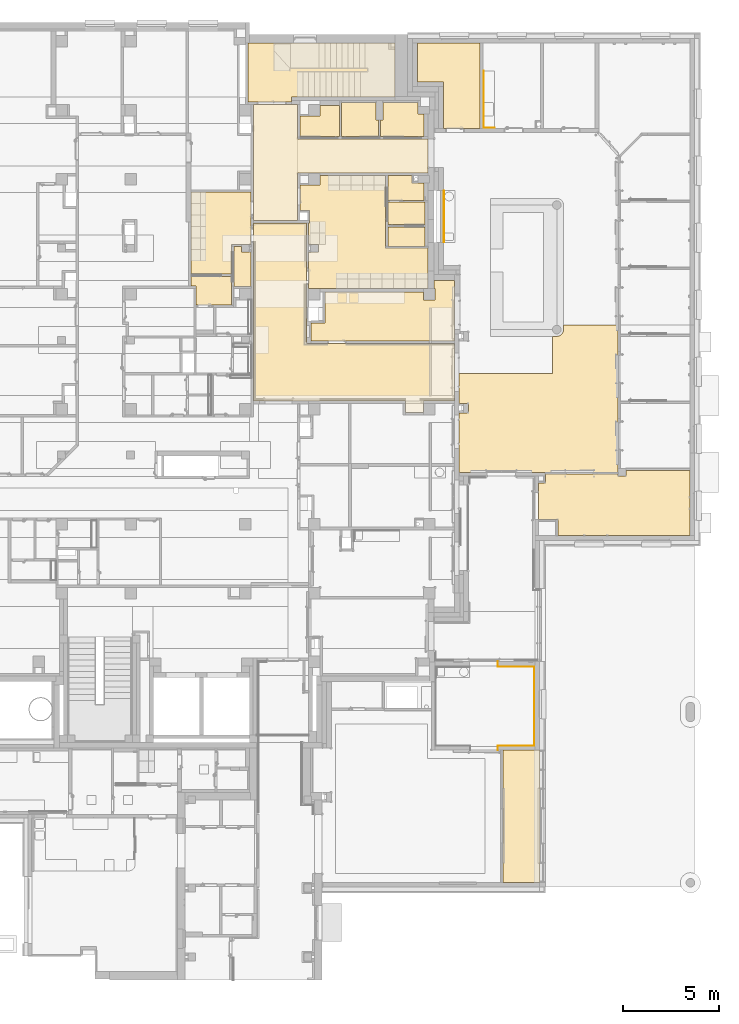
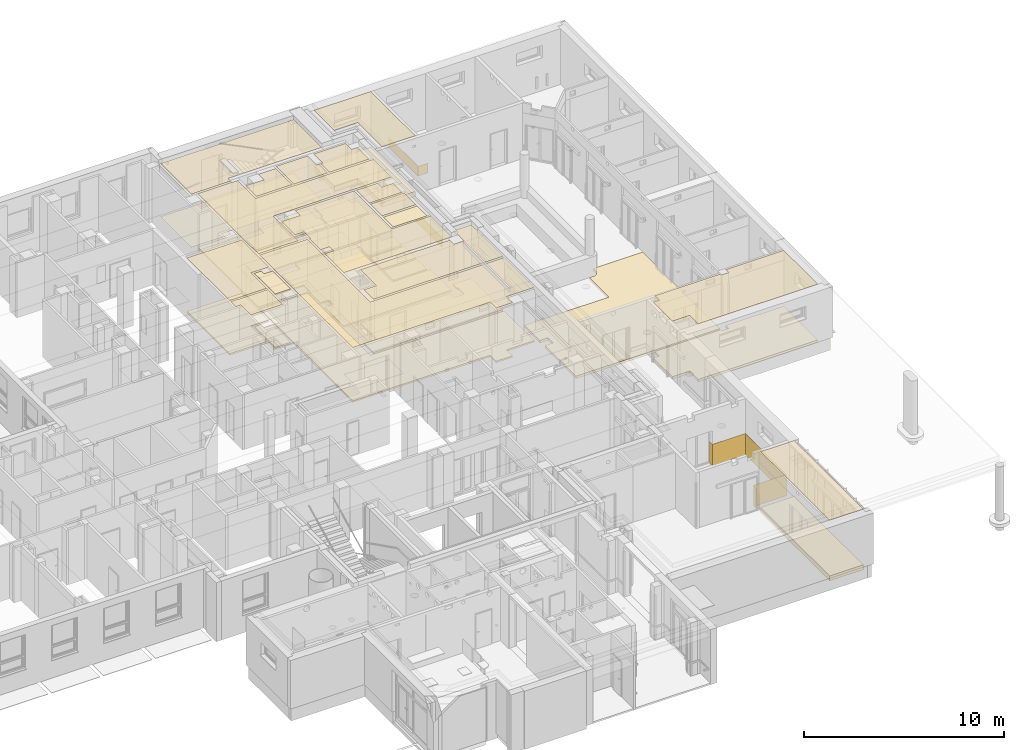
# One storey, part 130 of 140: 37 coverings.
"""IFC4 building model written with IfcOpenShell, lengths in metres."""

from ifc_helpers import new_model, entity, si_unit, converted_unit, derived_unit, frame, frame_2d, origin, origin_with_axes, place, context, subcontext, project, spatial, polyline, rectangle, outline, extrude, material, layer, layer_set, layer_usage, element, save


model = new_model("IFC4")

# Units and contexts
model_context = context("Model", 3, precision=1e-05, world=origin())
body_context = subcontext(model_context, "Body", "Model", "MODEL_VIEW")
ifc_project = project(units=[si_unit("LENGTHUNIT", "METRE"), si_unit("AREAUNIT", "SQUARE_METRE"), si_unit("VOLUMEUNIT", "CUBIC_METRE"), si_unit("MASSUNIT", "GRAM", prefix="KILO"), converted_unit("PLANEANGLEUNIT", "DEGREE", entity("IfcPlaneAngleMeasure", 0.0174532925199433), si_unit("PLANEANGLEUNIT", "RADIAN"), dimensions=[0, 0, 0, 0, 0, 0, 0]), derived_unit("THERMALTRANSMITTANCEUNIT", [(si_unit("POWERUNIT", "WATT"), 1), (si_unit("THERMODYNAMICTEMPERATUREUNIT", "KELVIN"), -1), (si_unit("LENGTHUNIT", "METRE"), -2)]), derived_unit("VOLUMETRICFLOWRATEUNIT", [(si_unit("LENGTHUNIT", "METRE"), 3), (converted_unit("TIMEUNIT", "hour", entity("IfcTimeMeasure", 3600.0), si_unit("TIMEUNIT", "SECOND"), dimensions=[0, 0, 1, 0, 0, 0, 0]), -1), (si_unit("LENGTHUNIT", "METRE"), -1)])], contexts=[model_context])

# Site, building, storey
site_placement = place(None, origin())
site = spatial("IfcSite", under=ifc_project, at=site_placement, Name="3. ASŘ", CompositionType="ELEMENT")
building_placement = place(site_placement, origin())
building = spatial("IfcBuilding", under=site, at=building_placement, Name="Pavilon C", CompositionType="ELEMENT")
storey_placement = place(building_placement, origin())
storey = spatial("IfcBuildingStorey", under=building, at=storey_placement, Name="Půdorys 1.NP", CompositionType="ELEMENT", Elevation=0.0)

# Coverings
ifc_material_1 = material(Name="KERAMICKÝ OBKLAD")
ifc_layer_1 = layer(ifc_material_1, 0.015)
ifc_layer_set_1 = layer_set([ifc_layer_1])
ifc_layer_usage_1 = layer_usage(ifc_layer_set_1, "AXIS3", "POSITIVE", 0.0)
covering_1_placement = place(storey_placement, frame((50.7099434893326, 21.9000827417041, 0.85)))
element("IfcCovering", 1, at=covering_1_placement, inside=storey, material=ifc_layer_usage_1, PredefinedType="CLADDING", context=body_context, shape_type="SweptSolid", body=[
    extrude(rectangle(XDim=0.6, YDim=2.69991052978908, at=frame_2d((-1.34995526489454, -0.3), x_axis=(0.0, -1.0))), frame((9.66311990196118e-05, 0.0, 0.0), z_axis=(0.999999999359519, 3.5790518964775e-05, 0.0), x_axis=(3.5790518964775e-05, -0.999999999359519, 0.0)), (0.0, 0.0, 1.0), 0.015),
])
ifc_material_2 = material(Name="KERAMICKÝ OBKLAD")
ifc_layer_2 = layer(ifc_material_2, 0.015)
ifc_layer_set_2 = layer_set([ifc_layer_2])
ifc_layer_usage_2 = layer_usage(ifc_layer_set_2, "AXIS3", "POSITIVE", 0.0)
covering_2_placement = place(storey_placement, frame((52.7800002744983, 27.88, 0.85)))
element("IfcCovering", 2, at=covering_2_placement, inside=storey, material=ifc_layer_usage_2, PredefinedType="CLADDING", context=body_context, shape_type="SweptSolid", body=[
    extrude(rectangle(XDim=0.6, YDim=0.569999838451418, at=frame_2d((-0.284999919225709, -0.3), x_axis=(0.0, -1.0))), frame((0.569999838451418, 0.0, 0.0), z_axis=(0.0, 1.0, 0.0), x_axis=(1.0, 0.0, 0.0)), (0.0, 0.0, 1.0), 0.015),
    extrude(rectangle(XDim=0.6, YDim=2.96999942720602, at=frame_2d((-1.48499971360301, -0.3), x_axis=(0.0, -1.0))), frame((-7.27595761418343e-15, -3.63797880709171e-15, 0.0), z_axis=(0.999999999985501, -5.38493816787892e-06, -9.96833435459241e-22), x_axis=(-5.38493816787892e-06, -0.999999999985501, 0.0)), (0.0, 0.0, 1.0), 0.015),
])
ifc_material_3 = material(Name="ACROVINYLOVÝ OBKLAD")
ifc_layer_3 = layer(ifc_material_3, 0.005)
ifc_layer_set_3 = layer_set([ifc_layer_3])
ifc_layer_usage_3 = layer_usage(ifc_layer_set_3, "AXIS3", "POSITIVE", 0.0)
covering_3_placement = place(storey_placement, frame((53.52, -4.6, 0.0)))
element("IfcCovering", 3, at=covering_3_placement, inside=storey, material=ifc_layer_usage_3, PredefinedType="CLADDING", context=body_context, shape_type="SweptSolid", body=[
    extrude(rectangle(XDim=1.3, YDim=0.28, at=frame_2d((-0.14, -0.65), x_axis=(0.0, -1.0))), frame((0.0, 4.63000000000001, 0.0), z_axis=(-1.0, 0.0, 0.0), x_axis=(0.0, 1.0, 0.0)), (0.0, 0.0, 1.0), 0.005),
    extrude(rectangle(XDim=1.3, YDim=4.12000000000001, at=frame_2d((-2.06000000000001, -0.65), x_axis=(0.0, -1.0))), frame((1.89999999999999, 4.35000000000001, 0.0), z_axis=(-1.0, 0.0, 0.0), x_axis=(0.0, 1.0, 0.0)), (0.0, 0.0, 1.0), 0.005),
    extrude(rectangle(XDim=1.3, YDim=0.23, at=frame_2d((-0.115, -0.65), x_axis=(0.0, -1.0))), frame((0.0, 0.23, 0.0), z_axis=(-1.0, 0.0, 0.0), x_axis=(0.0, 1.0, 0.0)), (0.0, 0.0, 1.0), 0.005),
    extrude(rectangle(XDim=1.3, YDim=1.89999999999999, at=frame_2d((-0.949999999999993, -0.65), x_axis=(0.0, -1.0))), frame((1.89999999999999, 0.229999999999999, 0.0), z_axis=(4.78681421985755e-16, 1.0, 0.0), x_axis=(1.0, -4.78681421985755e-16, 0.0)), (0.0, 0.0, 1.0), 0.005),
    extrude(rectangle(XDim=1.3, YDim=1.89999999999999, at=frame_2d((-0.949999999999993, -0.65), x_axis=(0.0, -1.0))), frame((0.0, 4.35000000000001, 0.0), z_axis=(-1.49587944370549e-17, -1.0, 0.0), x_axis=(-1.0, 1.49587944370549e-17, 0.0)), (0.0, 0.0, 1.0), 0.005),
])

# Space
space_1_placement = place(storey_placement, frame((40.475, 29.225, 0.0)))
space_1 = spatial("IfcSpace", under=storey, at=space_1_placement, Name="1.24", CompositionType="ELEMENT")

# Coverings
ifc_material_4 = material(Name="STÁVAJÍCÍ OMÍTKA")
ifc_layer_4 = layer(ifc_material_4, 0.015)
ifc_material_5 = material(Name="STÁVAJÍCÍ MALBA")
ifc_layer_5 = layer(ifc_material_5, 0.005)
ifc_layer_set_4 = layer_set([ifc_layer_4, ifc_layer_5])
ifc_layer_usage_4 = layer_usage(ifc_layer_set_4, "AXIS3", "POSITIVE", 0.0)
covering_4_placement = place(space_1_placement, frame((0.0, 0.0, 3.25)))
element("IfcCovering", 4, at=covering_4_placement, inside=space_1, material=ifc_layer_usage_4, PredefinedType="CEILING", context=body_context, shape_type="SweptSolid", body=[
    extrude(outline(polyline([(7.67499999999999, 0.0), (7.675, 2.8), (2.27499999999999, 2.8), (2.27499999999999, 3.07499999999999), (1.45519152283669e-14, 3.07499999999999), (0.0, 0.0), (7.67499999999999, 0.0)])), frame((0.0, 3.07499999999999, 0.0), z_axis=(0.0, 0.0, -1.0), x_axis=(1.0, 0.0, 0.0)), (0.0, 0.0, 1.0), 0.02),
])
ifc_material_6 = material(Name="STÁVAJÍCÍ LINO")
ifc_layer_6 = layer(ifc_material_6, 0.005)
ifc_layer_set_5 = layer_set([ifc_layer_6])
ifc_layer_usage_5 = layer_usage(ifc_layer_set_5, "AXIS3", "POSITIVE", 0.0)
covering_5_placement = place(space_1_placement, origin())
element("IfcCovering", 5, at=covering_5_placement, inside=space_1, material=ifc_layer_usage_5, PredefinedType="FLOORING", context=body_context, shape_type="SweptSolid", body=[
    extrude(outline(polyline([(7.675, 0.274999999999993), (7.67499999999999, 3.07499999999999), (0.0, 3.07499999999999), (1.45519152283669e-14, 0.0), (2.27499999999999, 0.0), (2.27499999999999, 0.274999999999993), (7.675, 0.274999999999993)])), origin_with_axes(), (0.0, 0.0, 1.0), 0.005),
])

# Space
space_2_placement = place(storey_placement, frame((53.78, -11.5, -0.3)))
space_2 = spatial("IfcSpace", under=storey, at=space_2_placement, Name="1.01a", CompositionType="ELEMENT")

# Coverings
ifc_material_7 = material()
ifc_layer_7 = layer(ifc_material_7, 0.295)
ifc_material_8 = material(Name="ČISTÍCÍ ZÓNA")
ifc_layer_8 = layer(ifc_material_8, 0.005)
ifc_layer_set_6 = layer_set([ifc_layer_7, ifc_layer_8])
ifc_layer_usage_6 = layer_usage(ifc_layer_set_6, "AXIS3", "POSITIVE", 0.0)
covering_6_placement = place(space_2_placement, origin())
element("IfcCovering", 6, at=covering_6_placement, inside=space_2, material=ifc_layer_usage_6, PredefinedType="FLOORING", context=body_context, shape_type="SweptSolid", body=[
    extrude(rectangle(XDim=1.95, YDim=6.89999999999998, at=frame_2d((-0.975, -3.44999999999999), x_axis=(-1.0, -6.52970555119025e-15))), frame((1.95, 6.89999999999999, 0.0), z_axis=(0.0, 0.0, 1.0), x_axis=(1.0, 0.0, 0.0)), (0.0, 0.0, 1.0), 0.3),
])
ifc_material_9 = material(Name="MALBA")
ifc_layer_9 = layer(ifc_material_9, 0.005)
ifc_material_10 = material(Name="SDK PODHLED")
ifc_layer_10 = layer(ifc_material_10, 0.025)
ifc_layer_set_7 = layer_set([ifc_layer_9, ifc_layer_10])
ifc_layer_usage_7 = layer_usage(ifc_layer_set_7, "AXIS3", "POSITIVE", 0.0)
covering_7_placement = place(space_2_placement, frame((0.0, 0.0, 3.7)))
element("IfcCovering", 7, at=covering_7_placement, inside=space_2, material=ifc_layer_usage_7, PredefinedType="CEILING", context=body_context, shape_type="SweptSolid", body=[
    extrude(rectangle(XDim=1.95, YDim=6.89999999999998, at=frame_2d((0.975, 3.44999999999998), x_axis=(1.0, -6.52970555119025e-15))), frame((0.0, 6.89999999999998, 0.0), z_axis=(0.0, 0.0, -1.0), x_axis=(1.0, 0.0, 0.0)), (0.0, 0.0, 1.0), 0.03),
])

# Space
space_3_placement = place(storey_placement, frame((51.5, 9.89999999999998, -0.15)))
space_3 = spatial("IfcSpace", under=storey, at=space_3_placement, Name="1.08", CompositionType="ELEMENT")

# Covering
ifc_material_11 = material()
ifc_layer_11 = layer(ifc_material_11, 0.145)
ifc_material_12 = material(Name="ELEKTROSTATICKÝ VINYL")
ifc_layer_12 = layer(ifc_material_12, 0.005)
ifc_layer_set_8 = layer_set([ifc_layer_11, ifc_layer_12])
ifc_layer_usage_8 = layer_usage(ifc_layer_set_8, "AXIS3", "POSITIVE", 0.0)
covering_8_placement = place(space_3_placement, frame((0.0, 1.81898940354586e-15, 0.0)))
element("IfcCovering", 8, at=covering_8_placement, inside=space_3, material=ifc_layer_usage_8, Name="I.P9", PredefinedType="FLOORING", context=body_context, shape_type="SweptSolid", body=[
    extrude(outline(polyline([(4.87888830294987, 5.15000000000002), (0.0, 5.15000000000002), (0.0, 3.60000000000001), (0.48, 3.60000000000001), (0.48, 3.10000000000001), (0.0, 3.10000000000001), (0.0, 0.0), (8.29999999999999, 3.63797880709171e-15), (8.29999999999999, 7.7), (5.44999999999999, 7.7), (5.44999999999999, 7.45000000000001), (5.44918406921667, 7.42611515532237), (5.4467400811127, 7.40234167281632), (5.4426794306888, 7.37879039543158), (5.43702105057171, 7.35557113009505), (5.42979132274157, 7.33279213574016), (5.42102395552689, 7.31055961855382), (5.41075982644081, 7.2889772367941), (5.39904679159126, 7.26814561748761), (5.38593946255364, 7.2481618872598), (5.37149895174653, 7.22911921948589), (5.35579258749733, 7.21110639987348), (5.33889360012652, 7.19420741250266), (5.3208807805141, 7.17850104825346), (5.30183811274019, 7.16406053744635), (5.28185438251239, 7.15095320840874), (5.26102276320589, 7.13924017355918), (5.23944038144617, 7.1289760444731), (5.21720786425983, 7.12020867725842), (5.19442886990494, 7.11297894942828), (5.17120960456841, 7.10732056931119), (5.14765832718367, 7.10325991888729), (5.12388484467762, 7.10081593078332), (5.09999999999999, 7.10000000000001), (4.87888830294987, 7.10000000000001), (4.87888830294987, 5.15000000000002)])), frame((0.0, -1.81898940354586e-15, 0.0), z_axis=(0.0, 0.0, 1.0), x_axis=(1.0, 0.0, 0.0)), (0.0, 0.0, 1.0), 0.15),
])

# Space
space_4_placement = place(storey_placement, frame((55.65, 6.59999999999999, -0.15)))
space_4 = spatial("IfcSpace", under=storey, at=space_4_placement, Name="1.10", CompositionType="ELEMENT")

# Coverings
ifc_material_13 = material()
ifc_layer_13 = layer(ifc_material_13, 0.145)
ifc_material_14 = material(Name="ELEKTROSTATICKÝ VINYL")
ifc_layer_14 = layer(ifc_material_14, 0.005)
ifc_layer_set_9 = layer_set([ifc_layer_13, ifc_layer_14])
ifc_layer_usage_9 = layer_usage(ifc_layer_set_9, "AXIS3", "POSITIVE", 0.0)
covering_9_placement = place(space_4_placement, origin())
element("IfcCovering", 9, at=covering_9_placement, inside=space_4, material=ifc_layer_usage_9, PredefinedType="FLOORING", context=body_context, shape_type="SweptSolid", body=[
    extrude(outline(polyline([(1.0, 0.85), (1.0, 0.0), (7.9, 0.0), (7.89999999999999, 3.4), (4.55, 3.4), (4.55, 3.1), (4.15, 3.1), (4.15, 3.2), (0.35, 3.2), (0.35, 2.75), (0.0, 2.75), (0.0, 0.85), (1.0, 0.85)])), origin_with_axes(), (0.0, 0.0, 1.0), 0.15),
])
ifc_material_15 = material(Name="RASTR 3")
ifc_layer_15 = layer(ifc_material_15, 0.03)
ifc_layer_set_10 = layer_set([ifc_layer_15])
ifc_layer_usage_10 = layer_usage(ifc_layer_set_10, "AXIS3", "POSITIVE", 0.0)
covering_10_placement = place(space_4_placement, frame((0.0, 0.0, 3.55)))
element("IfcCovering", 10, at=covering_10_placement, inside=space_4, material=ifc_layer_usage_10, PredefinedType="CEILING", context=body_context, shape_type="SweptSolid", body=[
    extrude(outline(polyline([(1.0, 3.4), (1.0, 2.55), (0.0, 2.55), (0.0, 0.65), (0.35, 0.65), (0.35, 0.2), (4.15, 0.200000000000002), (4.15, 0.3), (4.55, 0.3), (4.55, 0.0), (7.89999999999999, 0.0), (7.9, 3.4), (1.0, 3.4)])), frame((0.0, 3.4, 0.0), z_axis=(0.0, 0.0, -1.0), x_axis=(1.0, 0.0, 0.0)), (0.0, 0.0, 1.0), 0.03),
])

# Space
space_5_placement = place(storey_placement, frame((49.33, 27.85, -0.3)))
space_5 = spatial("IfcSpace", under=storey, at=space_5_placement, Name="1.19", CompositionType="ELEMENT")

# Coverings
ifc_material_16 = material()
ifc_layer_16 = layer(ifc_material_16, 0.295)
ifc_material_17 = material(Name="PŘÍRODNÍ LINOLEUM")
ifc_layer_17 = layer(ifc_material_17, 0.005)
ifc_layer_set_11 = layer_set([ifc_layer_16, ifc_layer_17])
ifc_layer_usage_11 = layer_usage(ifc_layer_set_11, "AXIS3", "POSITIVE", 0.0)
covering_11_placement = place(space_5_placement, origin())
element("IfcCovering", 11, at=covering_11_placement, inside=space_5, material=ifc_layer_usage_11, PredefinedType="FLOORING", context=body_context, shape_type="SweptSolid", body=[
    extrude(outline(polyline([(1.35, 2.43), (1.35, 0.0), (3.27, 0.0), (3.27, 4.45), (0.0, 4.45), (0.0, 2.43), (1.35, 2.43)])), origin_with_axes(), (0.0, 0.0, 1.0), 0.3),
])
ifc_material_18 = material(Name="RASTR 1")
ifc_layer_18 = layer(ifc_material_18, 0.03)
ifc_layer_set_12 = layer_set([ifc_layer_18])
ifc_layer_usage_12 = layer_usage(ifc_layer_set_12, "AXIS3", "POSITIVE", 0.0)
covering_12_placement = place(space_5_placement, frame((0.0, 0.0, 3.7)))
element("IfcCovering", 12, at=covering_12_placement, inside=space_5, material=ifc_layer_usage_12, PredefinedType="CEILING", context=body_context, shape_type="SweptSolid", body=[
    extrude(outline(polyline([(1.35, 4.45), (1.35, 2.02), (0.0, 2.02), (0.0, 0.0), (3.27, 0.0), (3.27, 4.45), (1.35, 4.45)])), frame((0.0, 4.45, 0.0), z_axis=(0.0, 0.0, -1.0), x_axis=(1.0, 0.0, 0.0)), (0.0, 0.0, 1.0), 0.03),
])

# Space
space_6_placement = place(storey_placement, frame((40.775, 23.05, -0.1)))
space_6 = spatial("IfcSpace", under=storey, at=space_6_placement, Name="1.20", CompositionType="ELEMENT")

# Coverings
ifc_material_19 = material()
ifc_layer_19 = layer(ifc_material_19, 0.095)
ifc_material_20 = material(Name="PŘÍRODNÍ LINOLEUM")
ifc_layer_20 = layer(ifc_material_20, 0.005)
ifc_layer_set_13 = layer_set([ifc_layer_19, ifc_layer_20])
ifc_layer_usage_13 = layer_usage(ifc_layer_set_13, "AXIS3", "POSITIVE", 0.0)
covering_13_placement = place(space_6_placement, frame((0.0, 3.63797880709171e-15, 0.0)))
element("IfcCovering", 13, at=covering_13_placement, inside=space_6, material=ifc_layer_usage_13, PredefinedType="FLOORING", context=body_context, shape_type="SweptSolid", body=[
    extrude(outline(polyline([(2.3, 4.24999999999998), (2.3, 6.05), (0.0, 6.05), (0.0, 0.0), (2.3, 0.0), (2.3, 2.475), (9.105, 2.475), (9.105, 4.24999999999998), (2.3, 4.24999999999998)])), frame((0.0, -3.63797880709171e-15, 0.0), z_axis=(0.0, 0.0, 1.0), x_axis=(1.0, 0.0, 0.0)), (0.0, 0.0, 1.0), 0.1),
])
ifc_material_21 = material(Name="RASTR 3")
ifc_layer_21 = layer(ifc_material_21, 0.03)
ifc_layer_set_14 = layer_set([ifc_layer_21])
ifc_layer_usage_14 = layer_usage(ifc_layer_set_14, "AXIS3", "POSITIVE", 0.0)
covering_14_placement = place(space_6_placement, frame((0.0, 3.63797880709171e-15, 3.35)))
element("IfcCovering", 14, at=covering_14_placement, inside=space_6, material=ifc_layer_usage_14, PredefinedType="CEILING", context=body_context, shape_type="SweptSolid", body=[
    extrude(outline(polyline([(2.3, 7.27595761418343e-15), (2.3, 1.80000000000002), (9.105, 1.80000000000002), (9.105, 3.57500000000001), (2.3, 3.575), (2.3, 6.05), (0.0, 6.05), (0.0, 0.0), (2.3, 7.27595761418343e-15)])), frame((0.0, 6.05, 0.0), z_axis=(0.0, 0.0, -1.0), x_axis=(1.0, 0.0, 0.0)), (0.0, 0.0, 1.0), 0.03),
])

# Space
space_7_placement = place(storey_placement, frame((47.4, 27.425, -0.1)))
space_7 = spatial("IfcSpace", under=storey, at=space_7_placement, Name="1.21", CompositionType="ELEMENT")

# Coverings
ifc_material_22 = material()
ifc_layer_22 = layer(ifc_material_22, 0.085)
ifc_material_23 = material(Name="KERAMICKÁ DLAŽBA")
ifc_layer_23 = layer(ifc_material_23, 0.015)
ifc_layer_set_15 = layer_set([ifc_layer_22, ifc_layer_23])
ifc_layer_usage_15 = layer_usage(ifc_layer_set_15, "AXIS3", "POSITIVE", 0.0)
covering_15_placement = place(space_7_placement, origin())
element("IfcCovering", 15, at=covering_15_placement, inside=space_7, material=ifc_layer_usage_15, PredefinedType="FLOORING", context=body_context, shape_type="SweptSolid", body=[
    extrude(outline(polyline([(1.95000000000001, 1.77500000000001), (0.125000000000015, 1.77500000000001), (0.125000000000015, 0.875000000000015), (0.0, 0.875), (0.0, 0.0), (2.28000000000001, 0.0), (2.28000000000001, 1.17500000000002), (1.95000000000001, 1.17500000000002), (1.95000000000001, 1.77500000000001)])), origin_with_axes(), (0.0, 0.0, 1.0), 0.1),
])
ifc_material_24 = material(Name="RASTR 2")
ifc_layer_24 = layer(ifc_material_24, 0.03)
ifc_layer_set_16 = layer_set([ifc_layer_24])
ifc_layer_usage_16 = layer_usage(ifc_layer_set_16, "AXIS3", "POSITIVE", 0.0)
covering_16_placement = place(space_7_placement, frame((0.0, 0.0, 3.35)))
element("IfcCovering", 16, at=covering_16_placement, inside=space_7, material=ifc_layer_usage_16, PredefinedType="CEILING", context=body_context, shape_type="SweptSolid", body=[
    extrude(outline(polyline([(0.125000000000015, 0.0), (1.95000000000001, 0.0), (1.95000000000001, 0.599999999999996), (2.28000000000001, 0.599999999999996), (2.28000000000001, 1.77500000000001), (0.0, 1.77500000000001), (0.0, 0.900000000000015), (0.125000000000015, 0.9), (0.125000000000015, 0.0)])), frame((0.0, 1.77500000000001, 0.0), z_axis=(0.0, 0.0, -1.0), x_axis=(1.0, 0.0, 0.0)), (0.0, 0.0, 1.0), 0.03),
])

# Space
space_8_placement = place(storey_placement, frame((45.35, 27.425, -0.1)))
space_8 = spatial("IfcSpace", under=storey, at=space_8_placement, Name="1.22", CompositionType="ELEMENT")

# Coverings
ifc_material_25 = material()
ifc_layer_25 = layer(ifc_material_25, 0.085)
ifc_material_26 = material(Name="KERAMICKÁ DLAŽBA")
ifc_layer_26 = layer(ifc_material_26, 0.015)
ifc_layer_set_17 = layer_set([ifc_layer_25, ifc_layer_26])
ifc_layer_usage_17 = layer_usage(ifc_layer_set_17, "AXIS3", "POSITIVE", 0.0)
covering_17_placement = place(space_8_placement, origin())
element("IfcCovering", 17, at=covering_17_placement, inside=space_8, material=ifc_layer_usage_17, PredefinedType="FLOORING", context=body_context, shape_type="SweptSolid", body=[
    extrude(outline(polyline([(1.825, 1.77500000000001), (0.0, 1.77500000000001), (0.0, 0.0), (1.94999999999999, 0.0), (1.94999999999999, 0.875), (1.825, 0.875000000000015), (1.825, 1.77500000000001)])), origin_with_axes(), (0.0, 0.0, 1.0), 0.1),
])
ifc_material_27 = material(Name="RASTR 2")
ifc_layer_27 = layer(ifc_material_27, 0.03)
ifc_layer_set_18 = layer_set([ifc_layer_27])
ifc_layer_usage_18 = layer_usage(ifc_layer_set_18, "AXIS3", "POSITIVE", 0.0)
covering_18_placement = place(space_8_placement, frame((0.0, 0.0, 3.35)))
element("IfcCovering", 18, at=covering_18_placement, inside=space_8, material=ifc_layer_usage_18, PredefinedType="CEILING", context=body_context, shape_type="SweptSolid", body=[
    extrude(outline(polyline([(0.0, 0.0), (1.825, 0.0), (1.825, 0.9), (1.94999999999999, 0.900000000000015), (1.94999999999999, 1.77500000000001), (0.0, 1.77500000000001), (0.0, 0.0)])), frame((0.0, 1.77500000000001, 0.0), z_axis=(0.0, 0.0, -1.0), x_axis=(1.0, 0.0, 0.0)), (0.0, 0.0, 1.0), 0.03),
])

# Space
space_9_placement = place(storey_placement, frame((43.2, 27.425, -0.1)))
space_9 = spatial("IfcSpace", under=storey, at=space_9_placement, Name="1.23", CompositionType="ELEMENT")

# Coverings
ifc_material_28 = material()
ifc_layer_28 = layer(ifc_material_28, 0.085)
ifc_material_29 = material(Name="KERAMICKÁ DLAŽBA")
ifc_layer_29 = layer(ifc_material_29, 0.015)
ifc_layer_set_19 = layer_set([ifc_layer_28, ifc_layer_29])
ifc_layer_usage_19 = layer_usage(ifc_layer_set_19, "AXIS3", "POSITIVE", 0.0)
covering_19_placement = place(space_9_placement, origin())
element("IfcCovering", 19, at=covering_19_placement, inside=space_9, material=ifc_layer_usage_19, PredefinedType="FLOORING", context=body_context, shape_type="SweptSolid", body=[
    extrude(outline(polyline([(2.05, 1.62500000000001), (1.05, 1.62500000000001), (1.05, 1.07500000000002), (0.0, 1.07500000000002), (0.0, 0.0), (2.05, 0.0), (2.05, 1.62500000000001)])), origin_with_axes(), (0.0, 0.0, 1.0), 0.1),
])
ifc_material_30 = material(Name="RASTR 2")
ifc_layer_30 = layer(ifc_material_30, 0.03)
ifc_layer_set_20 = layer_set([ifc_layer_30])
ifc_layer_usage_20 = layer_usage(ifc_layer_set_20, "AXIS3", "POSITIVE", 0.0)
covering_20_placement = place(space_9_placement, frame((0.0, 0.0, 3.35)))
element("IfcCovering", 20, at=covering_20_placement, inside=space_9, material=ifc_layer_usage_20, PredefinedType="CEILING", context=body_context, shape_type="SweptSolid", body=[
    extrude(outline(polyline([(1.05, 0.0), (2.05, 0.0), (2.05, 1.62500000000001), (0.0, 1.62500000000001), (0.0, 0.549999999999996), (1.05, 0.549999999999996), (1.05, 0.0)])), frame((0.0, 1.62500000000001, 0.0), z_axis=(0.0, 0.0, -1.0), x_axis=(1.0, 0.0, 0.0)), (0.0, 0.0, 1.0), 0.03),
])

# Space
space_10_placement = place(storey_placement, frame((43.2, 19.5, -0.1)))
space_10 = spatial("IfcSpace", under=storey, at=space_10_placement, Name="1.27", CompositionType="ELEMENT")

# Coverings
ifc_material_31 = material()
ifc_layer_31 = layer(ifc_material_31, 0.095)
ifc_material_32 = material(Name="PŘÍRODNÍ LINOLEUM")
ifc_layer_32 = layer(ifc_material_32, 0.005)
ifc_layer_set_21 = layer_set([ifc_layer_31, ifc_layer_32])
ifc_layer_usage_21 = layer_usage(ifc_layer_set_21, "AXIS3", "POSITIVE", 0.0)
covering_21_placement = place(space_10_placement, origin())
element("IfcCovering", 21, at=covering_21_placement, inside=space_10, material=ifc_layer_usage_21, PredefinedType="FLOORING", context=body_context, shape_type="SweptSolid", body=[
    extrude(outline(polyline([(0.5, 3.425), (0.45, 3.425), (0.45, 2.3), (0.95, 2.3), (0.95, 1.9), (0.45, 1.9), (0.45, 0.0), (6.68, 0.0), (6.68, 2.09999999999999), (4.455, 2.1), (4.455, 5.9), (1.05, 5.9), (1.05, 5.4), (0.0, 5.4), (0.0, 4.075), (0.5, 4.075), (0.5, 3.425)])), origin_with_axes(), (0.0, 0.0, 1.0), 0.1),
])
ifc_material_33 = material(Name="RASTR 2")
ifc_layer_33 = layer(ifc_material_33, 0.03)
ifc_layer_set_22 = layer_set([ifc_layer_33])
ifc_layer_usage_22 = layer_usage(ifc_layer_set_22, "AXIS3", "POSITIVE", 0.0)
covering_22_placement = place(space_10_placement, frame((0.0, 0.0, 3.35)))
element("IfcCovering", 22, at=covering_22_placement, inside=space_10, material=ifc_layer_usage_22, PredefinedType="CEILING", context=body_context, shape_type="SweptSolid", body=[
    extrude(outline(polyline([(0.45, 2.475), (0.5, 2.475), (0.5, 1.825), (0.0, 1.825), (0.0, 0.5), (1.05, 0.5), (1.05, 0.0), (4.455, 3.63797880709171e-15), (4.455, 3.8), (6.68, 3.80000000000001), (6.68, 5.9), (0.45, 5.9), (0.45, 4.0), (0.95, 4.0), (0.95, 3.6), (0.45, 3.6), (0.45, 2.475)])), frame((0.0, 5.9, 0.0), z_axis=(0.0, 0.0, -1.0), x_axis=(1.0, 0.0, 0.0)), (0.0, 0.0, 1.0), 0.03),
])

# Space
space_11_placement = place(storey_placement, frame((47.78, 22.825, -0.1)))
space_11 = spatial("IfcSpace", under=storey, at=space_11_placement, Name="1.28", CompositionType="ELEMENT")

# Coverings
ifc_material_34 = material()
ifc_layer_34 = layer(ifc_material_34, 0.085)
ifc_material_35 = material(Name="KERAMICKÁ DLAŽBA")
ifc_layer_35 = layer(ifc_material_35, 0.015)
ifc_layer_set_23 = layer_set([ifc_layer_34, ifc_layer_35])
ifc_layer_usage_23 = layer_usage(ifc_layer_set_23, "AXIS3", "POSITIVE", 0.0)
covering_23_placement = place(space_11_placement, origin())
element("IfcCovering", 23, at=covering_23_placement, inside=space_11, material=ifc_layer_usage_23, PredefinedType="FLOORING", context=body_context, shape_type="SweptSolid", body=[
    extrude(rectangle(XDim=1.95, YDim=1.175, at=frame_2d((-0.975, -0.5875), x_axis=(-1.0, 0.0))), frame((1.95, 1.175, 0.0), z_axis=(0.0, 0.0, 1.0), x_axis=(1.0, 0.0, 0.0)), (0.0, 0.0, 1.0), 0.1),
])
ifc_material_36 = material(Name="RASTR 2")
ifc_layer_36 = layer(ifc_material_36, 0.03)
ifc_layer_set_24 = layer_set([ifc_layer_36])
ifc_layer_usage_24 = layer_usage(ifc_layer_set_24, "AXIS3", "POSITIVE", 0.0)
covering_24_placement = place(space_11_placement, frame((0.0, 0.0, 3.35)))
element("IfcCovering", 24, at=covering_24_placement, inside=space_11, material=ifc_layer_usage_24, PredefinedType="CEILING", context=body_context, shape_type="SweptSolid", body=[
    extrude(rectangle(XDim=1.95, YDim=1.175, at=frame_2d((0.975, 0.5875), x_axis=(1.0, 0.0))), frame((0.0, 1.175, 0.0), z_axis=(0.0, 0.0, -1.0), x_axis=(1.0, 0.0, 0.0)), (0.0, 0.0, 1.0), 0.03),
])

# Space
space_12_placement = place(storey_placement, frame((47.78, 24.1, -0.1)))
space_12 = spatial("IfcSpace", under=storey, at=space_12_placement, Name="1.28a", CompositionType="ELEMENT")

# Coverings
ifc_material_37 = material()
ifc_layer_37 = layer(ifc_material_37, 0.085)
ifc_material_38 = material(Name="KERAMICKÁ DLAŽBA")
ifc_layer_38 = layer(ifc_material_38, 0.015)
ifc_layer_set_25 = layer_set([ifc_layer_37, ifc_layer_38])
ifc_layer_usage_25 = layer_usage(ifc_layer_set_25, "AXIS3", "POSITIVE", 0.0)
covering_25_placement = place(space_12_placement, origin())
element("IfcCovering", 25, at=covering_25_placement, inside=space_12, material=ifc_layer_usage_25, PredefinedType="FLOORING", context=body_context, shape_type="SweptSolid", body=[
    extrude(outline(polyline([(1.25, 1.3), (0.0, 1.3), (0.0, 0.0), (1.9, 0.0), (1.9, 0.9), (1.25, 0.9), (1.25, 1.3)])), origin_with_axes(), (0.0, 0.0, 1.0), 0.1),
])
ifc_material_39 = material(Name="RASTR 2")
ifc_layer_39 = layer(ifc_material_39, 0.03)
ifc_layer_set_26 = layer_set([ifc_layer_39])
ifc_layer_usage_26 = layer_usage(ifc_layer_set_26, "AXIS3", "POSITIVE", 0.0)
covering_26_placement = place(space_12_placement, frame((0.0, 0.0, 3.35)))
element("IfcCovering", 26, at=covering_26_placement, inside=space_12, material=ifc_layer_usage_26, PredefinedType="CEILING", context=body_context, shape_type="SweptSolid", body=[
    extrude(outline(polyline([(0.0, 0.0), (1.25, 0.0), (1.25, 0.399999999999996), (1.9, 0.399999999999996), (1.9, 1.3), (0.0, 1.3), (0.0, 0.0)])), frame((0.0, 1.3, 0.0), z_axis=(0.0, 0.0, -1.0), x_axis=(1.0, 0.0, 0.0)), (0.0, 0.0, 1.0), 0.03),
])

# Space
space_13_placement = place(storey_placement, frame((47.78, 21.7, -0.1)))
space_13 = spatial("IfcSpace", under=storey, at=space_13_placement, Name="1.28b", CompositionType="ELEMENT")

# Coverings
ifc_material_40 = material()
ifc_layer_40 = layer(ifc_material_40, 0.085)
ifc_material_41 = material(Name="KERAMICKÁ DLAŽBA")
ifc_layer_41 = layer(ifc_material_41, 0.015)
ifc_layer_set_27 = layer_set([ifc_layer_40, ifc_layer_41])
ifc_layer_usage_27 = layer_usage(ifc_layer_set_27, "AXIS3", "POSITIVE", 0.0)
covering_27_placement = place(space_13_placement, origin())
element("IfcCovering", 27, at=covering_27_placement, inside=space_13, material=ifc_layer_usage_27, PredefinedType="FLOORING", context=body_context, shape_type="SweptSolid", body=[
    extrude(rectangle(XDim=1.95, YDim=1.00000000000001, at=frame_2d((-0.975, -0.500000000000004), x_axis=(-1.0, 0.0))), frame((1.95, 1.00000000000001, 0.0), z_axis=(0.0, 0.0, 1.0), x_axis=(1.0, 0.0, 0.0)), (0.0, 0.0, 1.0), 0.1),
])
ifc_material_42 = material(Name="RASTR 4")
ifc_layer_42 = layer(ifc_material_42, 0.03)
ifc_layer_set_28 = layer_set([ifc_layer_42])
ifc_layer_usage_28 = layer_usage(ifc_layer_set_28, "AXIS3", "POSITIVE", 0.0)
covering_28_placement = place(space_13_placement, frame((0.0, 0.0, 3.35)))
element("IfcCovering", 28, at=covering_28_placement, inside=space_13, material=ifc_layer_usage_28, PredefinedType="CEILING", context=body_context, shape_type="SweptSolid", body=[
    extrude(rectangle(XDim=1.95, YDim=1.00000000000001, at=frame_2d((0.975, 0.500000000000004), x_axis=(1.0, 0.0))), frame((0.0, 1.00000000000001, 0.0), z_axis=(0.0, 0.0, -1.0), x_axis=(1.0, 0.0, 0.0)), (0.0, 0.0, 1.0), 0.03),
])

# Space
space_14_placement = place(storey_placement, frame((37.5, 20.25, -0.1)))
space_14 = spatial("IfcSpace", under=storey, at=space_14_placement, Name="1.25", CompositionType="ELEMENT")

# Coverings
ifc_material_43 = material()
ifc_layer_43 = layer(ifc_material_43, 0.095)
ifc_material_44 = material(Name="PŘÍRODNÍ LINOLEUM")
ifc_layer_44 = layer(ifc_material_44, 0.005)
ifc_layer_set_29 = layer_set([ifc_layer_43, ifc_layer_44])
ifc_layer_usage_29 = layer_usage(ifc_layer_set_29, "AXIS3", "POSITIVE", 0.0)
covering_29_placement = place(space_14_placement, origin())
element("IfcCovering", 29, at=covering_29_placement, inside=space_14, material=ifc_layer_usage_29, PredefinedType="FLOORING", context=body_context, shape_type="SweptSolid", body=[
    extrude(outline(polyline([(2.125, 0.0), (2.125, 1.55), (3.15, 1.55), (3.15, 4.27), (0.0, 4.27), (0.0, 0.0), (2.125, 0.0)])), origin_with_axes(), (0.0, 0.0, 1.0), 0.1),
])
ifc_material_45 = material(Name="RASTR 2")
ifc_layer_45 = layer(ifc_material_45, 0.03)
ifc_layer_set_30 = layer_set([ifc_layer_45])
ifc_layer_usage_30 = layer_usage(ifc_layer_set_30, "AXIS3", "POSITIVE", 0.0)
covering_30_placement = place(space_14_placement, frame((0.0, 0.0, 3.35)))
element("IfcCovering", 30, at=covering_30_placement, inside=space_14, material=ifc_layer_usage_30, PredefinedType="CEILING", context=body_context, shape_type="SweptSolid", body=[
    extrude(outline(polyline([(2.125, 2.72), (2.125, 4.27), (0.0, 4.27), (0.0, 0.0), (3.15, 0.0), (3.15, 2.72), (2.125, 2.72)])), frame((0.0, 4.27, 0.0), z_axis=(0.0, 0.0, -1.0), x_axis=(1.0, 0.0, 0.0)), (0.0, 0.0, 1.0), 0.03),
])

# Space
space_15_placement = place(storey_placement, frame((37.5, 18.625, -0.1)))
space_15 = spatial("IfcSpace", under=storey, at=space_15_placement, Name="1.26", CompositionType="ELEMENT")

# Covering
ifc_material_46 = material(Name="RASTR 4")
ifc_layer_46 = layer(ifc_material_46, 0.03)
ifc_layer_set_31 = layer_set([ifc_layer_46])
ifc_layer_usage_31 = layer_usage(ifc_layer_set_31, "AXIS3", "POSITIVE", 0.0)
covering_31_placement = place(space_15_placement, frame((0.0, 0.0, 3.35)))
element("IfcCovering", 31, at=covering_31_placement, inside=space_15, material=ifc_layer_usage_31, PredefinedType="CEILING", context=body_context, shape_type="SweptSolid", body=[
    extrude(outline(polyline([(0.0, 0.5), (0.0, 0.0), (2.125, 0.0), (2.125, 1.5), (0.275, 1.5), (0.275, 0.5), (0.0, 0.5)])), frame((0.0, 1.5, 0.0), z_axis=(0.0, 0.0, -1.0), x_axis=(1.0, 0.0, 0.0)), (0.0, 0.0, 1.0), 0.03),
])

# Space
space_16_placement = place(storey_placement, frame((40.775, 13.025, -0.1)))
space_16 = spatial("IfcSpace", under=storey, at=space_16_placement, Name="1.30", CompositionType="ELEMENT")

# Coverings
ifc_material_47 = material()
ifc_layer_47 = layer(ifc_material_47, 0.095)
ifc_material_48 = material(Name="PŘÍRODNÍ LINOLEUM")
ifc_layer_48 = layer(ifc_material_48, 0.005)
ifc_layer_set_32 = layer_set([ifc_layer_47, ifc_layer_48])
ifc_layer_usage_32 = layer_usage(ifc_layer_set_32, "AXIS3", "POSITIVE", 0.0)
covering_32_placement = place(space_16_placement, frame((0.0, -1.81898940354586e-15, 0.0)))
element("IfcCovering", 32, at=covering_32_placement, inside=space_16, material=ifc_layer_usage_32, PredefinedType="FLOORING", context=body_context, shape_type="SweptSolid", body=[
    extrude(outline(polyline([(2.75, 9.9), (0.0, 9.9), (0.0, 0.600000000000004), (7.925, 0.599999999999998), (7.925, 0.0), (8.875, 0.0), (8.875, 0.599999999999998), (10.475, 0.599999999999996), (10.475, 3.6), (2.75, 3.6), (2.75, 9.9)])), frame((0.0, 1.81898940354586e-15, 0.0), z_axis=(0.0, 0.0, 1.0), x_axis=(1.0, 0.0, 0.0)), (0.0, 0.0, 1.0), 0.1),
])
ifc_material_49 = material(Name="RASTR 1")
ifc_layer_49 = layer(ifc_material_49, 0.03)
ifc_layer_set_33 = layer_set([ifc_layer_49])
ifc_layer_usage_33 = layer_usage(ifc_layer_set_33, "AXIS3", "POSITIVE", 0.0)
covering_33_placement = place(space_16_placement, frame((0.0, -1.81898940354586e-15, 3.35)))
element("IfcCovering", 33, at=covering_33_placement, inside=space_16, material=ifc_layer_usage_33, PredefinedType="CEILING", context=body_context, shape_type="SweptSolid", body=[
    extrude(outline(polyline([(0.0, 0.0), (2.75, 0.0), (2.75, 6.3), (10.475, 6.3), (10.475, 9.3), (8.875, 9.3), (8.875, 9.9), (7.925, 9.9), (7.925, 9.3), (0.0, 9.3), (0.0, 0.0)])), frame((0.0, 9.9, 0.0), z_axis=(0.0, 0.0, -1.0), x_axis=(1.0, 0.0, 0.0)), (0.0, 0.0, 1.0), 0.03),
])

# Space
space_17_placement = place(storey_placement, frame((43.775, 16.75, -0.1)))
space_17 = spatial("IfcSpace", under=storey, at=space_17_placement, Name="1.29", CompositionType="ELEMENT")

# Coverings
ifc_material_50 = material()
ifc_layer_50 = layer(ifc_material_50, 0.085)
ifc_material_51 = material(Name="KERAMICKÁ DLAŽBA")
ifc_layer_51 = layer(ifc_material_51, 0.015)
ifc_layer_set_34 = layer_set([ifc_layer_50, ifc_layer_51])
ifc_layer_usage_34 = layer_usage(ifc_layer_set_34, "AXIS3", "POSITIVE", 0.0)
covering_34_placement = place(space_17_placement, origin())
element("IfcCovering", 34, at=covering_34_placement, inside=space_17, material=ifc_layer_usage_34, PredefinedType="FLOORING", context=body_context, shape_type="SweptSolid", body=[
    extrude(outline(polyline([(5.875, 2.55), (0.725, 2.55), (0.725, 0.950000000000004), (0.0, 0.950000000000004), (0.0, 0.0), (7.475, 0.0), (7.475, 3.17), (6.425, 3.17), (6.425, 2.75), (6.475, 2.75), (6.475, 2.15), (5.875, 2.15), (5.875, 2.55)])), origin_with_axes(), (0.0, 0.0, 1.0), 0.1),
])
ifc_material_52 = material(Name="RASTR 4")
ifc_layer_52 = layer(ifc_material_52, 0.03)
ifc_layer_set_35 = layer_set([ifc_layer_52])
ifc_layer_usage_35 = layer_usage(ifc_layer_set_35, "AXIS3", "POSITIVE", 0.0)
covering_35_placement = place(space_17_placement, frame((0.0, 0.0, 3.35)))
element("IfcCovering", 35, at=covering_35_placement, inside=space_17, material=ifc_layer_usage_35, PredefinedType="CEILING", context=body_context, shape_type="SweptSolid", body=[
    extrude(outline(polyline([(0.725, 0.619999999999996), (5.875, 0.619999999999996), (5.875, 1.02), (6.475, 1.02), (6.475, 0.419999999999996), (6.425, 0.419999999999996), (6.425, 0.0), (7.475, 0.0), (7.475, 3.17), (0.0, 3.17), (0.0, 2.21999999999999), (0.725, 2.21999999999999), (0.725, 0.619999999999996)])), frame((0.0, 3.17, 0.0), z_axis=(0.0, 0.0, -1.0), x_axis=(1.0, 0.0, 0.0)), (0.0, 0.0, 1.0), 0.03),
])

# Space
space_18_placement = place(storey_placement, frame((39.7499976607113, 19.6, -0.1)))
space_18 = spatial("IfcSpace", under=storey, at=space_18_placement, Name="1.26b", CompositionType="ELEMENT")

# Coverings
ifc_material_53 = material()
ifc_layer_53 = layer(ifc_material_53, 0.085)
ifc_material_54 = material(Name="KERAMICKÁ DLAŽBA")
ifc_layer_54 = layer(ifc_material_54, 0.015)
ifc_layer_set_36 = layer_set([ifc_layer_53, ifc_layer_54])
ifc_layer_usage_36 = layer_usage(ifc_layer_set_36, "AXIS3", "POSITIVE", 0.0)
covering_36_placement = place(space_18_placement, frame((7.27595761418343e-15, 0.0, 0.0)))
element("IfcCovering", 36, at=covering_36_placement, inside=space_18, material=ifc_layer_usage_36, PredefinedType="FLOORING", context=body_context, shape_type="SweptSolid", body=[
    extrude(outline(polyline([(0.0, 0.0), (0.9, 0.0), (0.9, 1.8), (0.4, 1.8), (0.4, 2.075), (0.0, 2.075), (0.0, 0.0)])), frame((2.33928870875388e-06, 0.0, 0.0), z_axis=(0.0, 0.0, 1.0), x_axis=(1.0, 0.0, 0.0)), (0.0, 0.0, 1.0), 0.1),
])
ifc_material_55 = material(Name="RASTR 4")
ifc_layer_55 = layer(ifc_material_55, 0.03)
ifc_layer_set_37 = layer_set([ifc_layer_55])
ifc_layer_usage_37 = layer_usage(ifc_layer_set_37, "AXIS3", "POSITIVE", 0.0)
covering_37_placement = place(space_18_placement, frame((7.27595761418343e-15, 0.0, 3.35)))
element("IfcCovering", 37, at=covering_37_placement, inside=space_18, material=ifc_layer_usage_37, PredefinedType="CEILING", context=body_context, shape_type="SweptSolid", body=[
    extrude(outline(polyline([(0.9, 2.075), (0.0, 2.075), (0.0, 0.0), (0.4, 0.0), (0.4, 0.275), (0.9, 0.275), (0.9, 2.075)])), frame((2.33928870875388e-06, 2.075, 0.0), z_axis=(0.0, 0.0, -1.0), x_axis=(1.0, 0.0, 0.0)), (0.0, 0.0, 1.0), 0.03),
])

save(model, "model.ifc")
